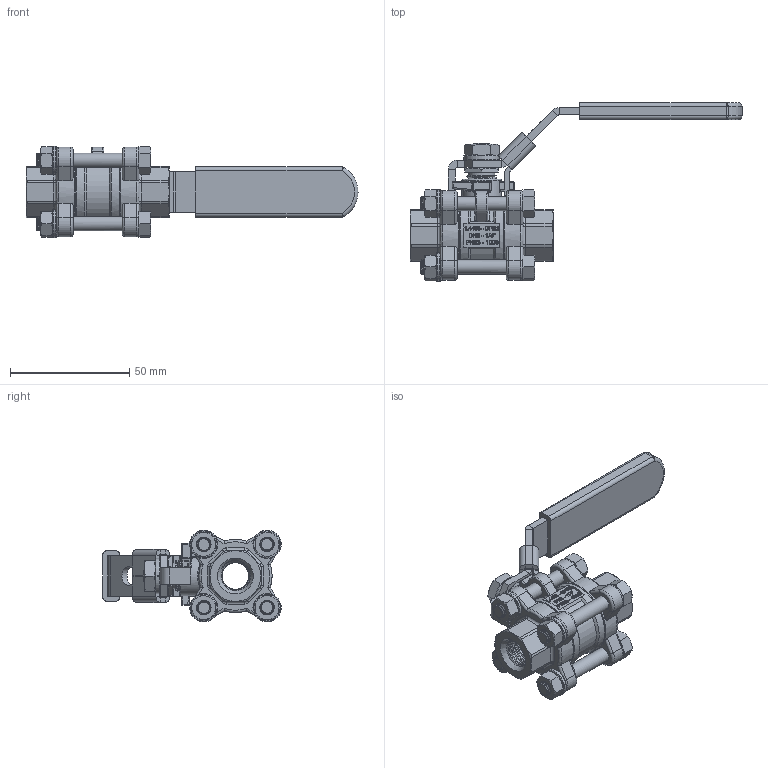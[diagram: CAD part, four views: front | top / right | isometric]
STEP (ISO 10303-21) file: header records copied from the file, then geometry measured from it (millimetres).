
FILE_DESCRIPTION((''),'2;1');
FILE_NAME('M:\3D-Files nach Lieferanten\Die Erste\RB_7410\RB7410008.stp','2022-02-09T10:26:47',('RL'),(''),'Autodesk Inventor 2012','Autodesk Inventor 2012','');
FILE_SCHEMA(('AUTOMOTIVE_DESIGN { 1 0 10303 214 1 1 1 1 }'));
Length unit declared in the file: millimetre
Products named in the file (1): RB7410008
Bounding box: 139 x 74.65 x 38.31 mm (x, y, z)
Volume: 57225.9 mm3; surface area: 45484.1 mm2
Topology: 31 solids, 31 shells, 1320 faces, 3481 edges, 2277 vertices
Faces by surface type: plane 506, cylinder 321, bspline 245, cone 146, torus 72, sphere 30
Full cylindrical faces by diameter (mm): 6 x40, 6.5 x13, 8 x6, 8.4 x1, 8.5 x1, 10.8 x2, 11 x1, 11.2 x12, 11.3 x3, 11.4 x3, 11.8 x4, 19.95 x2, 23 x2, 23.1 x2, 26.95 x2, 27 x2, 30.7 x4
Entity records: 85897 total; most frequent: CARTESIAN_POINT 57622, ORIENTED_EDGE 6532, DIRECTION 4784, EDGE_CURVE 3266, VERTEX_POINT 2229, AXIS2_PLACEMENT_3D 1750, EDGE_LOOP 1503, VECTOR 1284
